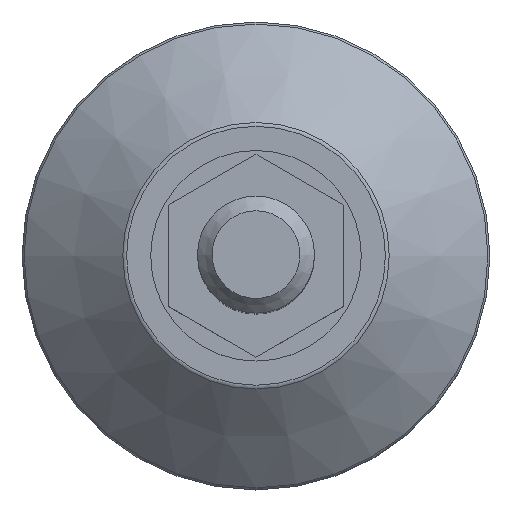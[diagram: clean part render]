
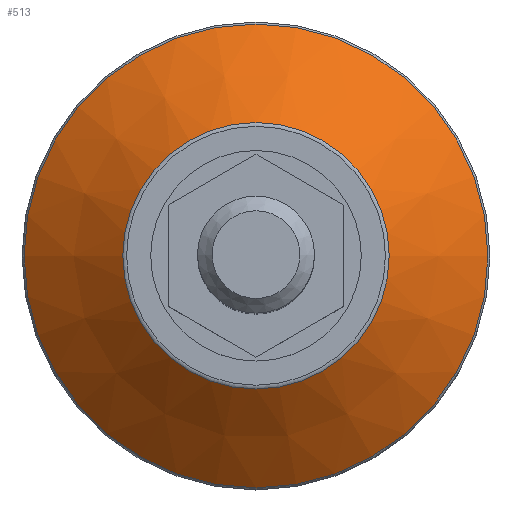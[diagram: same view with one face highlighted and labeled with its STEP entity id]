
A CAD part, top view. The second image highlights one B-rep face of the part: STEP entity #513.
In plain terms, the highlighted conical face has half-angle 49.399 degrees and reference radius 31.216 mm.
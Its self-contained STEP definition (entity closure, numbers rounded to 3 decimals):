
#84=CONICAL_SURFACE('',#566,31.216,49.399);
#94=FACE_BOUND('',#178,.T.);
#130=FACE_OUTER_BOUND('',#177,.T.);
#177=EDGE_LOOP('',(#400));
#178=EDGE_LOOP('',(#401));
#257=CIRCLE('',#564,22.781);
#259=CIRCLE('',#567,39.651);
#294=VERTEX_POINT('',#828);
#296=VERTEX_POINT('',#833);
#343=EDGE_CURVE('',#294,#294,#257,.T.);
#345=EDGE_CURVE('',#296,#296,#259,.T.);
#400=ORIENTED_EDGE('',*,*,#345,.T.);
#401=ORIENTED_EDGE('',*,*,#343,.F.);
#513=ADVANCED_FACE('',(#130,#94),#84,.T.);
#564=AXIS2_PLACEMENT_3D('',#829,#650,#651);
#566=AXIS2_PLACEMENT_3D('',#832,#654,#655);
#567=AXIS2_PLACEMENT_3D('',#834,#656,#657);
#650=DIRECTION('center_axis',(0.,0.,1.));
#651=DIRECTION('ref_axis',(1.,0.,0.));
#654=DIRECTION('center_axis',(0.,0.,-1.));
#655=DIRECTION('ref_axis',(1.,0.,0.));
#656=DIRECTION('center_axis',(0.,0.,1.));
#657=DIRECTION('ref_axis',(1.,0.,0.));
#828=CARTESIAN_POINT('',(-19.41,1.27,12.259));
#829=CARTESIAN_POINT('Origin',(3.371,1.27,12.259));
#832=CARTESIAN_POINT('Origin',(3.371,1.27,5.029));
#833=CARTESIAN_POINT('',(-36.28,1.27,-2.201));
#834=CARTESIAN_POINT('Origin',(3.371,1.27,-2.201));
